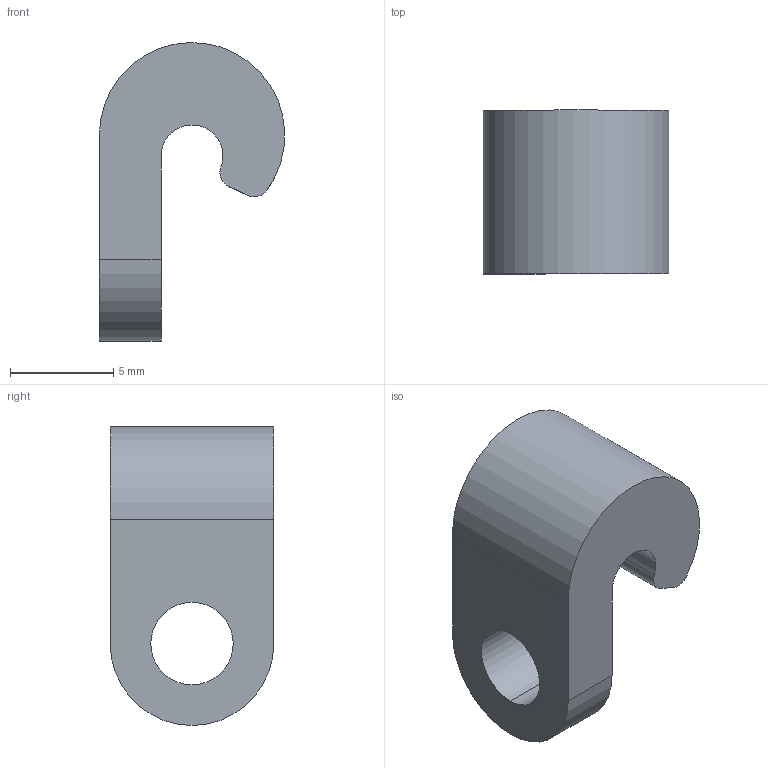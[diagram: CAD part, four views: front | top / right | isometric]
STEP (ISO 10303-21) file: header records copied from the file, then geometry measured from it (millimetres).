
FILE_DESCRIPTION (( 'STEP AP203' ), '1' );
FILE_NAME ('rubberband hooks2.STEP', '2018-02-21T17:54:56', ( '' ), ( '' ), 'SwSTEP 2.0', 'SolidWorks 2015', '' );
FILE_SCHEMA (( 'CONFIG_CONTROL_DESIGN' ));
Length unit declared in the file: inch
Products named in the file (1): rubberband hooks2
Bounding box: 8.99 x 7.94 x 14.5 mm (x, y, z)
Volume: 487 mm3; surface area: 502.2 mm2
Topology: 1 solids, 1 shells, 24 faces, 59 edges, 37 vertices
Faces by surface type: cylinder 13, plane 6, bspline 3, sphere 2
Entity records: 861 total; most frequent: CARTESIAN_POINT 219, DIRECTION 121, ORIENTED_EDGE 118, EDGE_CURVE 59, AXIS2_PLACEMENT_3D 49, VERTEX_POINT 37, CIRCLE 27, EDGE_LOOP 26
